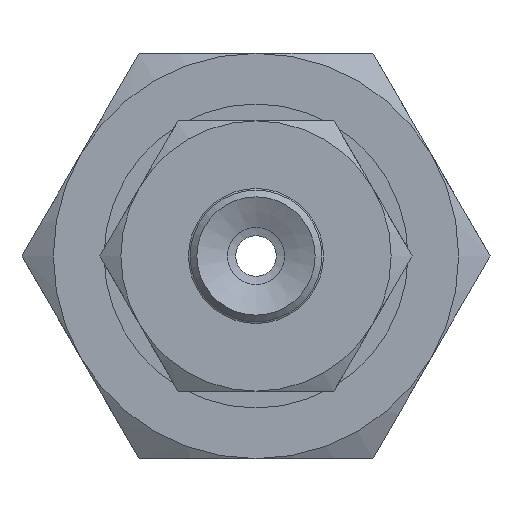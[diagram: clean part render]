
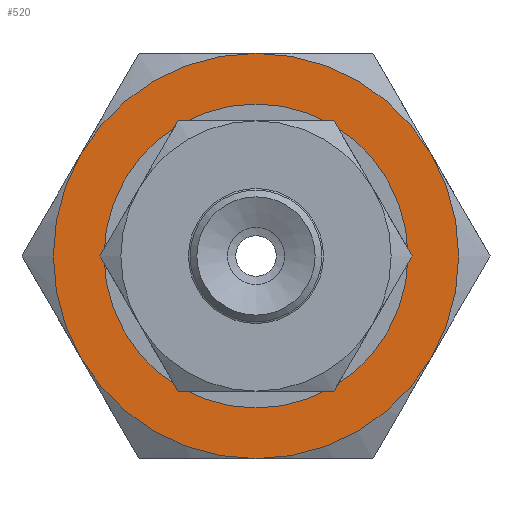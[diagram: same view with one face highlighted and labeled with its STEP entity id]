
A CAD part, front view. The second image highlights one B-rep face of the part: STEP entity #520.
In plain terms, the highlighted planar face has unit normal (0, -1, 0) as drawn and (-1, 0, 0) by its records, which use the part's own axes.
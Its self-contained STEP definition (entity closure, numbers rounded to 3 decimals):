
#520=ADVANCED_FACE('',(#722,#723),#724,.F.);
#722=FACE_BOUND('',#1011,.T.);
#723=FACE_OUTER_BOUND('',#1012,.T.);
#724=PLANE('',#1013);
#1011=EDGE_LOOP('',(#1635));
#1012=EDGE_LOOP('',(#1636,#1637,#1638,#1639,#1640,#1641));
#1013=AXIS2_PLACEMENT_3D('',#1642,#1643,#1644);
#1635=ORIENTED_EDGE('',*,*,#2069,.T.);
#1636=ORIENTED_EDGE('',*,*,#2074,.F.);
#1637=ORIENTED_EDGE('',*,*,#2039,.F.);
#1638=ORIENTED_EDGE('',*,*,#2037,.F.);
#1639=ORIENTED_EDGE('',*,*,#2075,.F.);
#1640=ORIENTED_EDGE('',*,*,#2073,.F.);
#1641=ORIENTED_EDGE('',*,*,#2072,.F.);
#1642=CARTESIAN_POINT('',(0.,0.0,0.0));
#1643=DIRECTION('',(1.0,0.0,0.0));
#1644=DIRECTION('',(0.0,1.0,0.0));
#2037=EDGE_CURVE('',#2309,#2306,#2310,.T.);
#2039=EDGE_CURVE('',#2306,#2312,#2313,.T.);
#2069=EDGE_CURVE('',#2361,#2361,#2362,.T.);
#2072=EDGE_CURVE('',#2342,#2363,#2366,.T.);
#2073=EDGE_CURVE('',#2363,#2356,#2367,.T.);
#2074=EDGE_CURVE('',#2312,#2342,#2368,.T.);
#2075=EDGE_CURVE('',#2356,#2309,#2369,.T.);
#2306=VERTEX_POINT('',#2770);
#2309=VERTEX_POINT('',#2793);
#2310=CIRCLE('',#2794,6.0);
#2312=VERTEX_POINT('',#2806);
#2313=CIRCLE('',#2807,6.0);
#2342=VERTEX_POINT('',#2928);
#2356=VERTEX_POINT('',#2994);
#2361=VERTEX_POINT('',#3019);
#2362=CIRCLE('',#3020,4.0);
#2363=VERTEX_POINT('',#3021);
#2366=CIRCLE('',#3044,6.0);
#2367=CIRCLE('',#3045,6.0);
#2368=CIRCLE('',#3046,6.0);
#2369=CIRCLE('',#3047,6.0);
#2770=CARTESIAN_POINT('',(0.,0.0,-6.0));
#2793=CARTESIAN_POINT('',(0.,-5.196,-3.0));
#2794=AXIS2_PLACEMENT_3D('',#3339,#3340,#3341);
#2806=CARTESIAN_POINT('',(0.,5.196,-3.0));
#2807=AXIS2_PLACEMENT_3D('',#3342,#3343,#3344);
#2928=CARTESIAN_POINT('',(0.,5.196,3.0));
#2994=CARTESIAN_POINT('',(0.,-5.196,3.0));
#3019=CARTESIAN_POINT('',(0.,0.0,-4.0));
#3020=AXIS2_PLACEMENT_3D('',#3376,#3377,#3378);
#3021=CARTESIAN_POINT('',(0.,0.0,6.0));
#3044=AXIS2_PLACEMENT_3D('',#3379,#3380,#3381);
#3045=AXIS2_PLACEMENT_3D('',#3382,#3383,#3384);
#3046=AXIS2_PLACEMENT_3D('',#3385,#3386,#3387);
#3047=AXIS2_PLACEMENT_3D('',#3388,#3389,#3390);
#3339=CARTESIAN_POINT('',(0.,0.0,0.0));
#3340=DIRECTION('',(1.0,0.0,0.0));
#3341=DIRECTION('',(0.0,0.0,-1.0));
#3342=CARTESIAN_POINT('',(0.,0.0,0.0));
#3343=DIRECTION('',(1.0,0.0,0.0));
#3344=DIRECTION('',(0.0,0.0,-1.0));
#3376=CARTESIAN_POINT('',(0.,0.0,0.0));
#3377=DIRECTION('',(1.0,0.0,0.0));
#3378=DIRECTION('',(0.0,0.0,-1.0));
#3379=CARTESIAN_POINT('',(0.,0.0,0.0));
#3380=DIRECTION('',(1.0,0.0,0.0));
#3381=DIRECTION('',(0.0,0.0,-1.0));
#3382=CARTESIAN_POINT('',(0.,0.0,0.0));
#3383=DIRECTION('',(1.0,0.0,0.0));
#3384=DIRECTION('',(0.0,0.0,-1.0));
#3385=CARTESIAN_POINT('',(0.,0.0,0.0));
#3386=DIRECTION('',(1.0,0.0,0.0));
#3387=DIRECTION('',(0.0,0.0,-1.0));
#3388=CARTESIAN_POINT('',(0.,0.0,0.0));
#3389=DIRECTION('',(1.0,0.0,0.0));
#3390=DIRECTION('',(0.0,0.0,-1.0));
